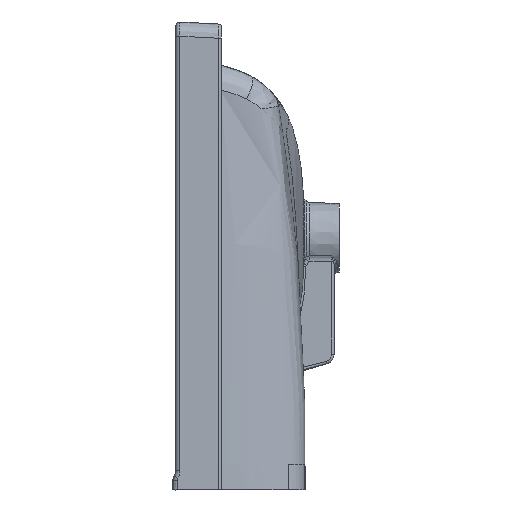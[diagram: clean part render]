
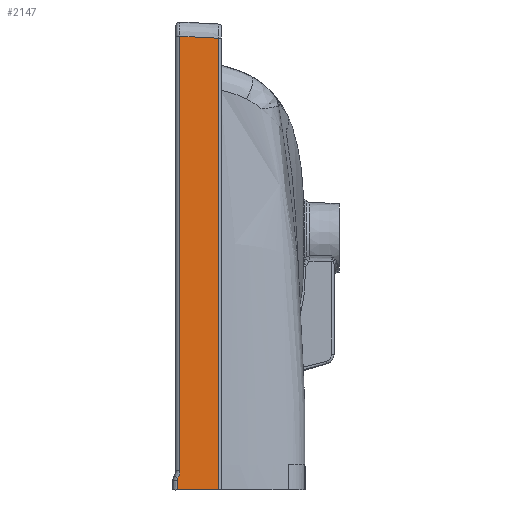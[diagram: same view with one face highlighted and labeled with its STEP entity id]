
A CAD part, left-side view. The second image highlights one B-rep face of the part: STEP entity #2147.
In plain terms, the highlighted planar face has unit normal (-0.999, -0.052, 0).
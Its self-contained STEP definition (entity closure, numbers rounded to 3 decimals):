
#1664 = CARTESIAN_POINT ( 'NONE',  ( -425.068, 1.291, 0. ) ) ;
#2147 = ADVANCED_FACE ( 'NONE', ( #6900 ), #38025, .T. ) ;
#3506 = LINE ( 'NONE', #88698, #55925 ) ;
#3777 = CARTESIAN_POINT ( 'NONE',  ( -425.064, 1.227, 10.174 ) ) ;
#6338 = CARTESIAN_POINT ( 'NONE',  ( -424.928, -1.367, 17.862 ) ) ;
#6900 = FACE_OUTER_BOUND ( 'NONE', #69179, .T. ) ;
#7741 = CARTESIAN_POINT ( 'NONE',  ( -422.937, -39.36, 444.112 ) ) ;
#10636 = CARTESIAN_POINT ( 'NONE',  ( -422.937, -39.36, 444.112 ) ) ;
#10831 = VERTEX_POINT ( 'NONE', #7741 ) ;
#11666 = CARTESIAN_POINT ( 'NONE',  ( -424.926, -1.413, 19.218 ) ) ;
#11781 = ORIENTED_EDGE ( 'NONE', *, *, #80111, .T. ) ;
#13994 = CARTESIAN_POINT ( 'NONE',  ( -424.939, -1.172, 16.518 ) ) ;
#17343 = VECTOR ( 'NONE', #29092, 1000. ) ;
#17603 = DIRECTION ( 'NONE',  ( 0.052, -0.999, 0. ) ) ;
#20649 = CARTESIAN_POINT ( 'NONE',  ( -425.038, 0.719, 11.51 ) ) ;
#28297 = CARTESIAN_POINT ( 'NONE',  ( -424.926, -1.413, 19.218 ) ) ;
#29092 = DIRECTION ( 'NONE',  ( 0., 0., 1. ) ) ;
#29130 = EDGE_CURVE ( 'NONE', #10831, #78356, #93004, .T. ) ;
#34904 = CARTESIAN_POINT ( 'NONE',  ( -425.067, 1.276, 9.816 ) ) ;
#35945 = CARTESIAN_POINT ( 'NONE',  ( -425.001, 0.021, 12.676 ) ) ;
#37452 = CARTESIAN_POINT ( 'NONE',  ( -424.95, -0.955, 15.527 ) ) ;
#37656 = B_SPLINE_CURVE_WITH_KNOTS ( 'NONE', 3,
 ( #40449, #95526, #87370, #1664 ),
 .UNSPECIFIED., .F., .F.,
 ( 4, 4 ),
 ( 0., 0.009 ),
 .UNSPECIFIED. ) ;
#38025 = PLANE ( 'NONE',  #83337 ) ;
#39973 = B_SPLINE_CURVE_WITH_KNOTS ( 'NONE', 3,
 ( #28297, #81853, #6338, #50759, #13994, #45113, #37452, #68567, #35945, #20649 ),
 .UNSPECIFIED., .F., .F.,
 ( 4, 2, 2, 2, 4 ),
 ( 0., 0.002, 0.003, 0.004, 0.008 ),
 .UNSPECIFIED. ) ;
#40248 = CARTESIAN_POINT ( 'NONE',  ( -423.6, -26.711, 444.769 ) ) ;
#40449 = CARTESIAN_POINT ( 'NONE',  ( -425.067, 1.288, 9.455 ) ) ;
#41558 = CARTESIAN_POINT ( 'NONE',  ( -425.055, 1.046, 10.871 ) ) ;
#45113 = CARTESIAN_POINT ( 'NONE',  ( -424.946, -1.035, 15.854 ) ) ;
#45395 = CARTESIAN_POINT ( 'NONE',  ( -422.937, -39.36, 443.965 ) ) ;
#48039 = ORIENTED_EDGE ( 'NONE', *, *, #74717, .F. ) ;
#48140 = EDGE_CURVE ( 'NONE', #66776, #10831, #92802, .T. ) ;
#49015 = CARTESIAN_POINT ( 'NONE',  ( -419.486, -105.211, 0. ) ) ;
#49417 = CARTESIAN_POINT ( 'NONE',  ( -424.263, -14.062, 445.426 ) ) ;
#49725 = CARTESIAN_POINT ( 'NONE',  ( -425.062, 1.19, 10.352 ) ) ;
#50759 = CARTESIAN_POINT ( 'NONE',  ( -424.936, -1.229, 16.854 ) ) ;
#51162 = ORIENTED_EDGE ( 'NONE', *, *, #48140, .T. ) ;
#55547 = CARTESIAN_POINT ( 'NONE',  ( -425.038, 0.719, 11.51 ) ) ;
#55663 = DIRECTION ( 'NONE',  ( -0.052, 0.999, 0. ) ) ;
#55925 = VECTOR ( 'NONE', #58086, 1000. ) ;
#58086 = DIRECTION ( 'NONE',  ( 0., 0., -1. ) ) ;
#62429 = VERTEX_POINT ( 'NONE', #55547 ) ;
#62841 = CARTESIAN_POINT ( 'NONE',  ( -425.068, 1.291, 0. ) ) ;
#64304 = LINE ( 'NONE', #49015, #69281 ) ;
#65305 = ORIENTED_EDGE ( 'NONE', *, *, #29130, .T. ) ;
#66776 = VERTEX_POINT ( 'NONE', #90851 ) ;
#68567 = CARTESIAN_POINT ( 'NONE',  ( -424.973, -0.506, 13.908 ) ) ;
#69179 = EDGE_LOOP ( 'NONE', ( #48039, #51162, #65305, #11781, #83485, #82764, #71353 ) ) ;
#69281 = VECTOR ( 'NONE', #55663, 1000. ) ;
#70698 = EDGE_CURVE ( 'NONE', #93257, #100165, #37656, .T. ) ;
#71353 = ORIENTED_EDGE ( 'NONE', *, *, #70698, .T. ) ;
#72671 = CARTESIAN_POINT ( 'NONE',  ( -425.038, 0.719, 11.51 ) ) ;
#73671 = CARTESIAN_POINT ( 'NONE',  ( -425.067, 1.288, 9.636 ) ) ;
#73939 = EDGE_CURVE ( 'NONE', #89176, #62429, #39973, .T. ) ;
#74717 = EDGE_CURVE ( 'NONE', #66776, #100165, #64304, .T. ) ;
#78356 = VERTEX_POINT ( 'NONE', #86113 ) ;
#79430 = EDGE_CURVE ( 'NONE', #62429, #93257, #92246, .T. ) ;
#80111 = EDGE_CURVE ( 'NONE', #78356, #89176, #3506, .T. ) ;
#80521 = CARTESIAN_POINT ( 'NONE',  ( -424.926, -1.413, 446.083 ) ) ;
#81853 = CARTESIAN_POINT ( 'NONE',  ( -424.926, -1.413, 18.538 ) ) ;
#82764 = ORIENTED_EDGE ( 'NONE', *, *, #79430, .T. ) ;
#83337 = AXIS2_PLACEMENT_3D ( 'NONE', #92596, #88460, #17603 ) ;
#83485 = ORIENTED_EDGE ( 'NONE', *, *, #73939, .T. ) ;
#85843 = CARTESIAN_POINT ( 'NONE',  ( -425.067, 1.288, 9.455 ) ) ;
#86113 = CARTESIAN_POINT ( 'NONE',  ( -424.926, -1.413, 446.083 ) ) ;
#87370 = CARTESIAN_POINT ( 'NONE',  ( -425.068, 1.29, 3.152 ) ) ;
#88460 = DIRECTION ( 'NONE',  ( -0.999, -0.052, 0. ) ) ;
#88698 = CARTESIAN_POINT ( 'NONE',  ( -424.926, -1.413, 19.222 ) ) ;
#88968 = CARTESIAN_POINT ( 'NONE',  ( -425.047, 0.905, 11.199 ) ) ;
#89176 = VERTEX_POINT ( 'NONE', #11666 ) ;
#90851 = CARTESIAN_POINT ( 'NONE',  ( -422.937, -39.36, 0. ) ) ;
#92246 = B_SPLINE_CURVE_WITH_KNOTS ( 'NONE', 3,
 ( #72671, #88968, #41558, #49725, #3777, #34904, #73671, #95634 ),
 .UNSPECIFIED., .F., .F.,
 ( 4, 2, 2, 4 ),
 ( 0., 0.001, 0.002, 0.002 ),
 .UNSPECIFIED. ) ;
#92596 = CARTESIAN_POINT ( 'NONE',  ( -423.836, -22.212, 636. ) ) ;
#92802 = LINE ( 'NONE', #45395, #17343 ) ;
#93004 = B_SPLINE_CURVE_WITH_KNOTS ( 'NONE', 3,
 ( #10636, #40248, #49417, #80521 ),
 .UNSPECIFIED., .F., .F.,
 ( 4, 4 ),
 ( 0.003, 0.041 ),
 .UNSPECIFIED. ) ;
#93257 = VERTEX_POINT ( 'NONE', #85843 ) ;
#95526 = CARTESIAN_POINT ( 'NONE',  ( -425.068, 1.289, 6.304 ) ) ;
#95634 = CARTESIAN_POINT ( 'NONE',  ( -425.067, 1.288, 9.455 ) ) ;
#100165 = VERTEX_POINT ( 'NONE', #62841 ) ;
